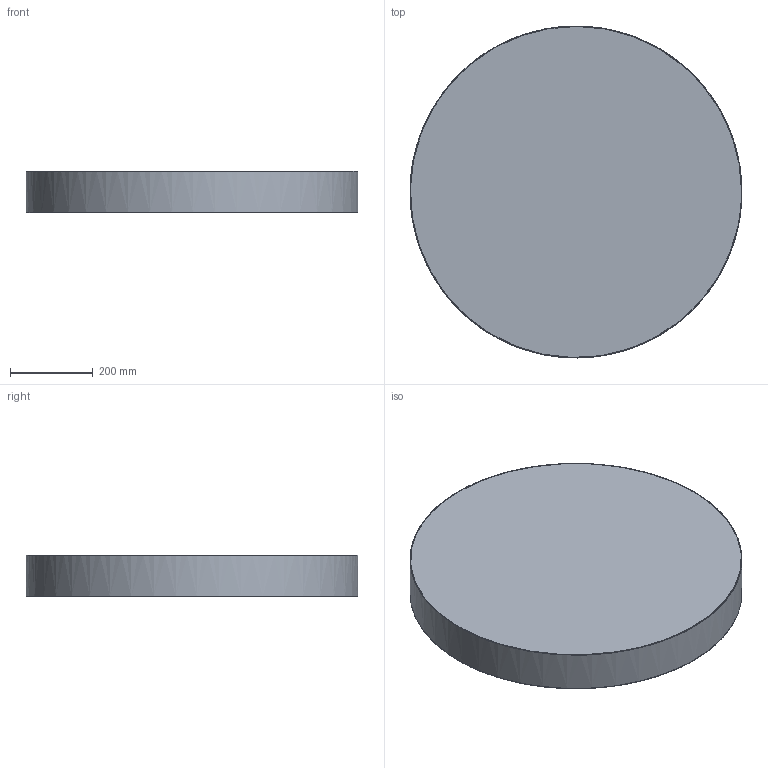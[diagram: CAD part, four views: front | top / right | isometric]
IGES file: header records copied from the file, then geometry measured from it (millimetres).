
Global section: file name: C:\Users\EQUIPO\Desktop\COLECCIONES ACB MODELADAS 3D OK\ISIA\isia-plafon-3453-80-led (IGES).igs; native system: Rhinoceros ( Oct  8 2013 ); preprocessor: Trout Lake IGES 012 Oct  8 2013; date: 190207.120940; units: millimetre
Bounding box: 799.93 x 799.98 x 100 mm (x, y, z)
Surface area: 2691106.1 mm2 (no closed solid volume)
Topology: 0 solids, 0 shells, 12 faces, 207 edges, 203 vertices
Faces by surface type: bspline 12
